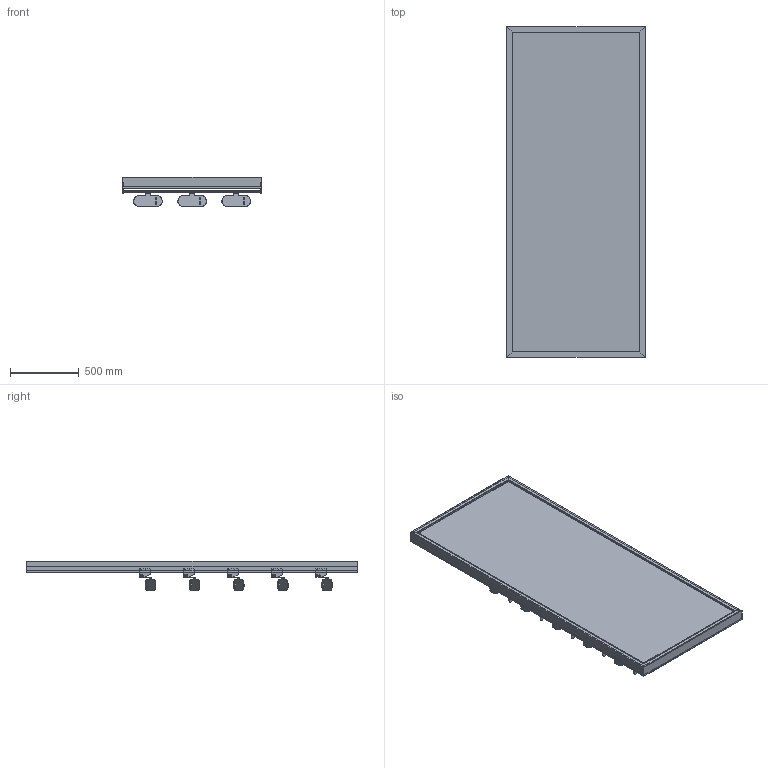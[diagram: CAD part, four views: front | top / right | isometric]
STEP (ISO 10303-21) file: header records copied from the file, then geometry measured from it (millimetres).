
FILE_DESCRIPTION (( 'STEP AP203' ), '1' );
FILE_NAME ('Padel Retail Display - Footwear 1005.STEP', '2026-03-30T11:49:58', ( '' ), ( '' ), 'SwSTEP 2.0', 'SolidWorks 2025', '' );
FILE_SCHEMA (( 'CONFIG_CONTROL_DESIGN' ));
Length unit declared in the file: millimetre
Products named in the file (7): 0001-31-SA26 - 1005W Rear support Bar_Assem8; 0001-31-131.STEP; 0001-31-103.STEP; 0001-31-GA10 - 1005W Slotted upbright; 373-01-GA01; Padel Retail Display - Footwear 1005; 0001-31-SA26 - 1005W Rear support Bar.STEP
Assembly tree (25 placements, depth 4):
  Padel Retail Display - Footwear 1005
    0001-31-GA10 - 1005W Slotted upbright
    0001-31-SA26 - 1005W Rear support Bar_Assem8  x5
      0001-31-SA26 - 1005W Rear support Bar.STEP
        0001-31-103.STEP  x2
        0001-31-131.STEP
    373-01-GA01  x15
Bounding box: 1005.74 x 2400 x 212.4 mm (x, y, z)
Volume: 9586652.1 mm3; surface area: 13406484.8 mm2
Topology: 36 solids, 36 shells, 1521 faces, 4506 edges, 2924 vertices
Faces by surface type: plane 1203, cylinder 288, bspline 30
Entity records: 27838 total; most frequent: CARTESIAN_POINT 5209, ORIENTED_EDGE 4906, DIRECTION 3835, EDGE_CURVE 2453, VECTOR 2315, LINE 2315, VERTEX_POINT 1630, EDGE_LOOP 859
